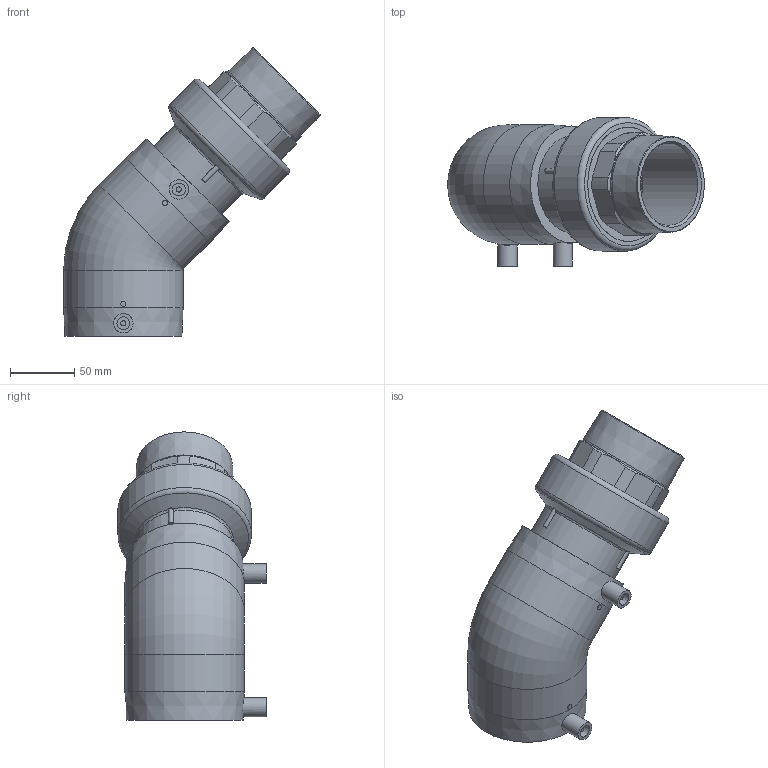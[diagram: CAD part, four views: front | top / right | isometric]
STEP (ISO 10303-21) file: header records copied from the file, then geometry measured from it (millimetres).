
FILE_DESCRIPTION(/* description */ ('Unknown'),/* implementation_level */ '2;1');
FILE_NAME(/* name */ 'GE4TMP075C',/* time_stamp */ '2021-03-02T16:05:43+01:00',/* author */ ('Unknown'),/* organization */ ('Unknown'),/* preprocessor_version */ 'ST-DEVELOPER v16.7',/* originating_system */ 'Solid Edge',/* authorisation */ 'Unknown');
FILE_SCHEMA (('AUTOMOTIVE_DESIGN {1 0 10303 214 3 1 1}'));
Length unit declared in the file: millimetre
Products named in the file (5): GE4TMP075C; GE4P075C; RTOMP075C; Parte PE 075; IOM075C
Assembly tree (4 placements, depth 3):
  GE4TMP075C
    GE4P075C
    RTOMP075C
      Parte PE 075
      IOM075C
Bounding box: 199.82 x 115.39 x 224.32 mm (x, y, z)
Volume: 713752.6 mm3; surface area: 199108.2 mm2
Topology: 3 solids, 3 shells, 205 faces, 478 edges, 306 vertices
Faces by surface type: plane 108, cylinder 54, cone 15, bspline 15, torus 13
Full cylindrical faces by diameter (mm): 4 x4, 10 x2, 15 x2, 61.4 x1, 64 x1, 67 x2, 72 x2, 75 x3, 76.3 x1, 83 x4, 83.4 x2, 89 x8, 93 x2, 104 x1
Entity records: 6566 total; most frequent: CARTESIAN_POINT 1425, DIRECTION 958, ORIENTED_EDGE 844, EDGE_CURVE 422, AXIS2_PLACEMENT_3D 397, VERTEX_POINT 295, EDGE_LOOP 283, FACE_BOUND 283
